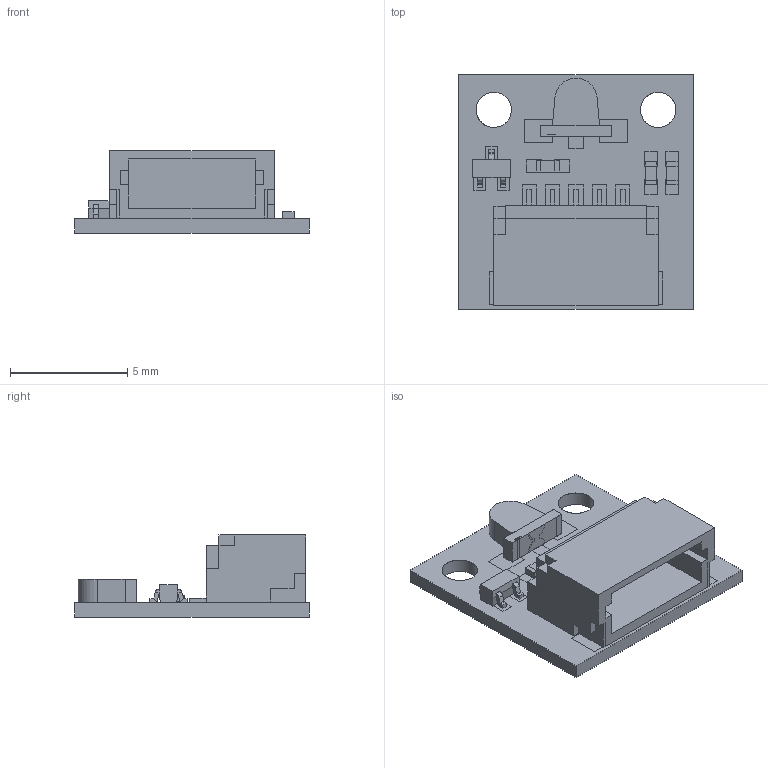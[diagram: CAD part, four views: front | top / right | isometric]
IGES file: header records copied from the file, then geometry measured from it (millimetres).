
Global section: file name: Filename.iges; native system: Open CASCADE 7.4; preprocessor: Open CASCADE IGES processor 7.4; date: 20200730.113432; units: millimetre
Bounding box: 10 x 10 x 3.5 mm (x, y, z)
Surface area: 940.9 mm2 (no closed solid volume)
Topology: 0 solids, 0 shells, 1280 faces, 6268 edges, 6260 vertices
Faces by surface type: plane 1038, bspline 198, revolution 44
